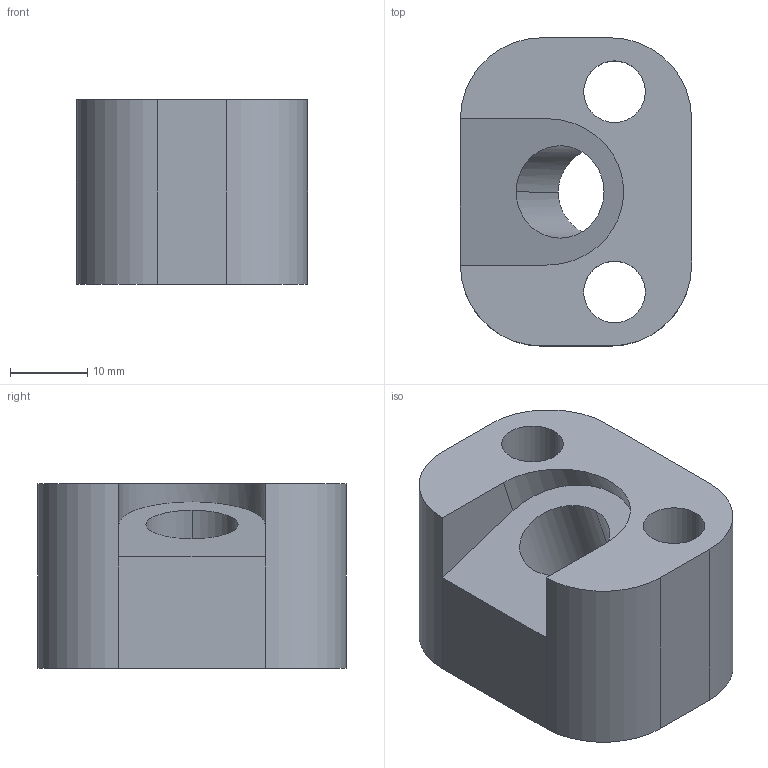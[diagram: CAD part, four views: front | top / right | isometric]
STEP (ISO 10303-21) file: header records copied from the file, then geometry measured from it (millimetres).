
FILE_DESCRIPTION (( 'STEP AP214' ), '1' );
FILE_NAME ('BR3060-12-30.STEP', '2020-06-22T10:44:59', ( '' ), ( '' ), 'SwSTEP 2.0', 'SolidWorks 2018', '' );
FILE_SCHEMA (( 'AUTOMOTIVE_DESIGN' ));
Length unit declared in the file: millimetre
Products named in the file (1): BR3060-12-30
Bounding box: 30 x 40 x 24 mm (x, y, z)
Volume: 18923.1 mm3; surface area: 6932.1 mm2
Topology: 1 solids, 1 shells, 26 faces, 64 edges, 42 vertices
Faces by surface type: cylinder 15, plane 11
Entity records: 915 total; most frequent: CARTESIAN_POINT 232, DIRECTION 141, ORIENTED_EDGE 128, EDGE_CURVE 64, AXIS2_PLACEMENT_3D 54, VERTEX_POINT 42, EDGE_LOOP 34, LINE 33
